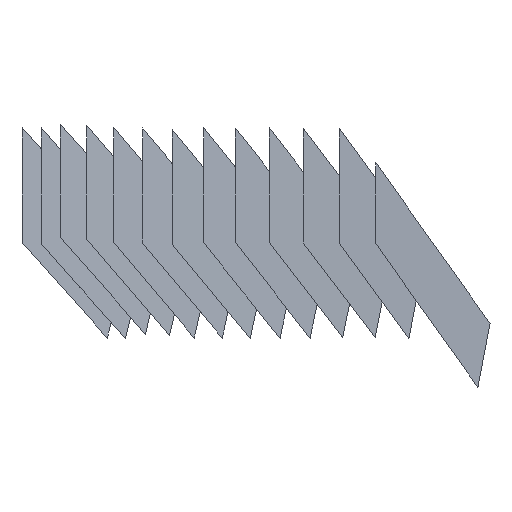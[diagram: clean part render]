
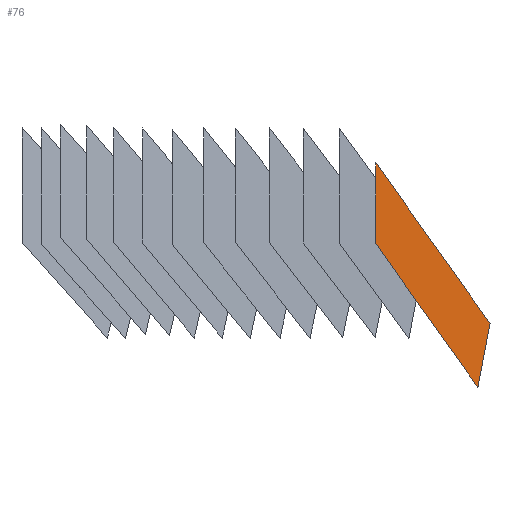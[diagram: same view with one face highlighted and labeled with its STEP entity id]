
A CAD part, left-side view. The second image highlights one B-rep face of the part: STEP entity #76.
In plain terms, the highlighted free-form (B-spline) face has degree [1, 1] with [2, 2] control points.
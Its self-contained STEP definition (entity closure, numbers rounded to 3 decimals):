
#76 = ADVANCED_FACE('',(#77),#90,.T.);
#77 = FACE_BOUND('',#78,.T.);
#78 = EDGE_LOOP('',(#79,#100,#114,#128,#142,#156,#170,#184,#198,#212,
    #226));
#79 = ORIENTED_EDGE('',*,*,#80,.T.);
#80 = EDGE_CURVE('',#81,#83,#85,.T.);
#81 = VERTEX_POINT('',#82);
#82 = CARTESIAN_POINT('',(34.894,65.512,
    16.373));
#83 = VERTEX_POINT('',#84);
#84 = CARTESIAN_POINT('',(34.245,66.166,17.31
    ));
#85 = SURFACE_CURVE('',#86,(#89),.PCURVE_S1.);
#86 = B_SPLINE_CURVE_WITH_KNOTS('',1,(#87,#88),.UNSPECIFIED.,.F.,.F.,(2,
    2),(-1.315,-0.),.PIECEWISE_BEZIER_KNOTS.);
#87 = CARTESIAN_POINT('',(34.894,65.512,
    16.373));
#88 = CARTESIAN_POINT('',(34.245,66.166,17.31
    ));
#89 = PCURVE('',#90,#95);
#90 = B_SPLINE_SURFACE_WITH_KNOTS('',1,1,(
    (#91,#92)
    ,(#93,#94
    )),.UNSPECIFIED.,.F.,.F.,.F.,(2,2),(2,2),(-5.927,
    6.013),(-3.95,4.594),
  .PIECEWISE_BEZIER_KNOTS.);
#91 = CARTESIAN_POINT('',(29.515,70.927,
    16.376));
#92 = CARTESIAN_POINT('',(35.537,64.865,
    16.372));
#93 = CARTESIAN_POINT('',(29.523,70.926,
    28.316));
#94 = CARTESIAN_POINT('',(35.546,64.865,
    28.312));
#95 = DEFINITIONAL_REPRESENTATION('',(#96),#99);
#96 = B_SPLINE_CURVE_WITH_KNOTS('',1,(#97,#98),.UNSPECIFIED.,.F.,.F.,(2,
    2),(-1.315,-0.),.PIECEWISE_BEZIER_KNOTS.);
#97 = CARTESIAN_POINT('',(-5.927,3.682));
#98 = CARTESIAN_POINT('',(-4.99,2.76));
#99 = ( GEOMETRIC_REPRESENTATION_CONTEXT(2) 
PARAMETRIC_REPRESENTATION_CONTEXT() REPRESENTATION_CONTEXT('2D SPACE',''
  ) );
#100 = ORIENTED_EDGE('',*,*,#101,.T.);
#101 = EDGE_CURVE('',#83,#102,#104,.T.);
#102 = VERTEX_POINT('',#103);
#103 = CARTESIAN_POINT('',(31.104,69.331,
    21.749));
#104 = SURFACE_CURVE('',#105,(#108),.PCURVE_S1.);
#105 = B_SPLINE_CURVE_WITH_KNOTS('',1,(#106,#107),.UNSPECIFIED.,.F.,.F.,
  (2,2),(0.,6.292),.PIECEWISE_BEZIER_KNOTS.);
#106 = CARTESIAN_POINT('',(34.245,66.166,
    17.31));
#107 = CARTESIAN_POINT('',(31.104,69.331,
    21.749));
#108 = PCURVE('',#90,#109);
#109 = DEFINITIONAL_REPRESENTATION('',(#110),#113);
#110 = B_SPLINE_CURVE_WITH_KNOTS('',1,(#111,#112),.UNSPECIFIED.,.F.,.F.,
  (2,2),(0.,6.292),.PIECEWISE_BEZIER_KNOTS.);
#111 = CARTESIAN_POINT('',(-4.99,2.76));
#112 = CARTESIAN_POINT('',(-0.553,-1.701));
#113 = ( GEOMETRIC_REPRESENTATION_CONTEXT(2) 
PARAMETRIC_REPRESENTATION_CONTEXT() REPRESENTATION_CONTEXT('2D SPACE',''
  ) );
#114 = ORIENTED_EDGE('',*,*,#115,.T.);
#115 = EDGE_CURVE('',#102,#116,#118,.T.);
#116 = VERTEX_POINT('',#117);
#117 = CARTESIAN_POINT('',(31.091,69.344,
    21.768));
#118 = SURFACE_CURVE('',#119,(#122),.PCURVE_S1.);
#119 = B_SPLINE_CURVE_WITH_KNOTS('',1,(#120,#121),.UNSPECIFIED.,.F.,.F.,
  (2,2),(0.,0.027),.PIECEWISE_BEZIER_KNOTS.);
#120 = CARTESIAN_POINT('',(31.104,69.331,
    21.749));
#121 = CARTESIAN_POINT('',(31.091,69.344,
    21.768));
#122 = PCURVE('',#90,#123);
#123 = DEFINITIONAL_REPRESENTATION('',(#124),#127);
#124 = B_SPLINE_CURVE_WITH_KNOTS('',1,(#125,#126),.UNSPECIFIED.,.F.,.F.,
  (2,2),(0.,0.027),.PIECEWISE_BEZIER_KNOTS.);
#125 = CARTESIAN_POINT('',(-0.553,-1.701));
#126 = CARTESIAN_POINT('',(-0.534,-1.72));
#127 = ( GEOMETRIC_REPRESENTATION_CONTEXT(2) 
PARAMETRIC_REPRESENTATION_CONTEXT() REPRESENTATION_CONTEXT('2D SPACE',''
  ) );
#128 = ORIENTED_EDGE('',*,*,#129,.T.);
#129 = EDGE_CURVE('',#116,#130,#132,.T.);
#130 = VERTEX_POINT('',#131);
#131 = CARTESIAN_POINT('',(29.521,70.925,
    24.001));
#132 = SURFACE_CURVE('',#133,(#136),.PCURVE_S1.);
#133 = B_SPLINE_CURVE_WITH_KNOTS('',1,(#134,#135),.UNSPECIFIED.,.F.,.F.,
  (2,2),(0.,3.154),.PIECEWISE_BEZIER_KNOTS.);
#134 = CARTESIAN_POINT('',(31.091,69.344,
    21.768));
#135 = CARTESIAN_POINT('',(29.521,70.925,
    24.001));
#136 = PCURVE('',#90,#137);
#137 = DEFINITIONAL_REPRESENTATION('',(#138),#141);
#138 = B_SPLINE_CURVE_WITH_KNOTS('',1,(#139,#140),.UNSPECIFIED.,.F.,.F.,
  (2,2),(0.,3.154),.PIECEWISE_BEZIER_KNOTS.);
#139 = CARTESIAN_POINT('',(-0.534,-1.72));
#140 = CARTESIAN_POINT('',(1.697,-3.948));
#141 = ( GEOMETRIC_REPRESENTATION_CONTEXT(2) 
PARAMETRIC_REPRESENTATION_CONTEXT() REPRESENTATION_CONTEXT('2D SPACE',''
  ) );
#142 = ORIENTED_EDGE('',*,*,#143,.T.);
#143 = EDGE_CURVE('',#130,#144,#146,.T.);
#144 = VERTEX_POINT('',#145);
#145 = CARTESIAN_POINT('',(29.522,70.926,
    26.));
#146 = SURFACE_CURVE('',#147,(#150),.PCURVE_S1.);
#147 = B_SPLINE_CURVE_WITH_KNOTS('',1,(#148,#149),.UNSPECIFIED.,.F.,.F.,
  (2,2),(0.,1.999),.PIECEWISE_BEZIER_KNOTS.);
#148 = CARTESIAN_POINT('',(29.521,70.925,
    24.001));
#149 = CARTESIAN_POINT('',(29.522,70.926,
    26.));
#150 = PCURVE('',#90,#151);
#151 = DEFINITIONAL_REPRESENTATION('',(#152),#155);
#152 = B_SPLINE_CURVE_WITH_KNOTS('',1,(#153,#154),.UNSPECIFIED.,.F.,.F.,
  (2,2),(0.,1.999),.PIECEWISE_BEZIER_KNOTS.);
#153 = CARTESIAN_POINT('',(1.697,-3.948));
#154 = CARTESIAN_POINT('',(3.696,-3.949));
#155 = ( GEOMETRIC_REPRESENTATION_CONTEXT(2) 
PARAMETRIC_REPRESENTATION_CONTEXT() REPRESENTATION_CONTEXT('2D SPACE',''
  ) );
#156 = ORIENTED_EDGE('',*,*,#157,.T.);
#157 = EDGE_CURVE('',#144,#158,#160,.T.);
#158 = VERTEX_POINT('',#159);
#159 = CARTESIAN_POINT('',(29.523,70.926,
    28.));
#160 = SURFACE_CURVE('',#161,(#164),.PCURVE_S1.);
#161 = B_SPLINE_CURVE_WITH_KNOTS('',1,(#162,#163),.UNSPECIFIED.,.F.,.F.,
  (2,2),(0.,2.),.PIECEWISE_BEZIER_KNOTS.);
#162 = CARTESIAN_POINT('',(29.522,70.926,
    26.));
#163 = CARTESIAN_POINT('',(29.523,70.926,
    28.));
#164 = PCURVE('',#90,#165);
#165 = DEFINITIONAL_REPRESENTATION('',(#166),#169);
#166 = B_SPLINE_CURVE_WITH_KNOTS('',1,(#167,#168),.UNSPECIFIED.,.F.,.F.,
  (2,2),(0.,2.),.PIECEWISE_BEZIER_KNOTS.);
#167 = CARTESIAN_POINT('',(3.696,-3.949));
#168 = CARTESIAN_POINT('',(5.696,-3.95));
#169 = ( GEOMETRIC_REPRESENTATION_CONTEXT(2) 
PARAMETRIC_REPRESENTATION_CONTEXT() REPRESENTATION_CONTEXT('2D SPACE',''
  ) );
#170 = ORIENTED_EDGE('',*,*,#171,.T.);
#171 = EDGE_CURVE('',#158,#172,#174,.T.);
#172 = VERTEX_POINT('',#173);
#173 = CARTESIAN_POINT('',(29.523,70.926,
    28.316));
#174 = SURFACE_CURVE('',#175,(#178),.PCURVE_S1.);
#175 = B_SPLINE_CURVE_WITH_KNOTS('',1,(#176,#177),.UNSPECIFIED.,.F.,.F.,
  (2,2),(0.,0.316),.PIECEWISE_BEZIER_KNOTS.);
#176 = CARTESIAN_POINT('',(29.523,70.926,
    28.));
#177 = CARTESIAN_POINT('',(29.523,70.926,
    28.316));
#178 = PCURVE('',#90,#179);
#179 = DEFINITIONAL_REPRESENTATION('',(#180),#183);
#180 = B_SPLINE_CURVE_WITH_KNOTS('',1,(#181,#182),.UNSPECIFIED.,.F.,.F.,
  (2,2),(0.,0.316),.PIECEWISE_BEZIER_KNOTS.);
#181 = CARTESIAN_POINT('',(5.696,-3.95));
#182 = CARTESIAN_POINT('',(6.013,-3.95));
#183 = ( GEOMETRIC_REPRESENTATION_CONTEXT(2) 
PARAMETRIC_REPRESENTATION_CONTEXT() REPRESENTATION_CONTEXT('2D SPACE',''
  ) );
#184 = ORIENTED_EDGE('',*,*,#185,.T.);
#185 = EDGE_CURVE('',#172,#186,#188,.T.);
#186 = VERTEX_POINT('',#187);
#187 = CARTESIAN_POINT('',(32.612,67.814,
    23.921));
#188 = SURFACE_CURVE('',#189,(#192),.PCURVE_S1.);
#189 = B_SPLINE_CURVE_WITH_KNOTS('',1,(#190,#191),.UNSPECIFIED.,.F.,.F.,
  (2,2),(0.,6.209),.PIECEWISE_BEZIER_KNOTS.);
#190 = CARTESIAN_POINT('',(29.523,70.926,
    28.316));
#191 = CARTESIAN_POINT('',(32.612,67.814,
    23.921));
#192 = PCURVE('',#90,#193);
#193 = DEFINITIONAL_REPRESENTATION('',(#194),#197);
#194 = B_SPLINE_CURVE_WITH_KNOTS('',1,(#195,#196),.UNSPECIFIED.,.F.,.F.,
  (2,2),(0.,6.209),.PIECEWISE_BEZIER_KNOTS.);
#195 = CARTESIAN_POINT('',(6.013,-3.95));
#196 = CARTESIAN_POINT('',(1.619,0.437));
#197 = ( GEOMETRIC_REPRESENTATION_CONTEXT(2) 
PARAMETRIC_REPRESENTATION_CONTEXT() REPRESENTATION_CONTEXT('2D SPACE',''
  ) );
#198 = ORIENTED_EDGE('',*,*,#199,.T.);
#199 = EDGE_CURVE('',#186,#200,#202,.T.);
#200 = VERTEX_POINT('',#201);
#201 = CARTESIAN_POINT('',(32.62,67.806,
    23.909));
#202 = SURFACE_CURVE('',#203,(#206),.PCURVE_S1.);
#203 = B_SPLINE_CURVE_WITH_KNOTS('',1,(#204,#205),.UNSPECIFIED.,.F.,.F.,
  (2,2),(0.,0.016),.PIECEWISE_BEZIER_KNOTS.);
#204 = CARTESIAN_POINT('',(32.612,67.814,
    23.921));
#205 = CARTESIAN_POINT('',(32.62,67.806,
    23.909));
#206 = PCURVE('',#90,#207);
#207 = DEFINITIONAL_REPRESENTATION('',(#208),#211);
#208 = B_SPLINE_CURVE_WITH_KNOTS('',1,(#209,#210),.UNSPECIFIED.,.F.,.F.,
  (2,2),(0.,0.016),.PIECEWISE_BEZIER_KNOTS.);
#209 = CARTESIAN_POINT('',(1.619,0.437));
#210 = CARTESIAN_POINT('',(1.608,0.448));
#211 = ( GEOMETRIC_REPRESENTATION_CONTEXT(2) 
PARAMETRIC_REPRESENTATION_CONTEXT() REPRESENTATION_CONTEXT('2D SPACE',''
  ) );
#212 = ORIENTED_EDGE('',*,*,#213,.T.);
#213 = EDGE_CURVE('',#200,#214,#216,.T.);
#214 = VERTEX_POINT('',#215);
#215 = CARTESIAN_POINT('',(35.54,64.865,
    19.784));
#216 = SURFACE_CURVE('',#217,(#220),.PCURVE_S1.);
#217 = B_SPLINE_CURVE_WITH_KNOTS('',1,(#218,#219),.UNSPECIFIED.,.F.,.F.,
  (2,2),(-5.847,-0.),.PIECEWISE_BEZIER_KNOTS.);
#218 = CARTESIAN_POINT('',(32.62,67.806,
    23.909));
#219 = CARTESIAN_POINT('',(35.54,64.865,
    19.784));
#220 = PCURVE('',#90,#221);
#221 = DEFINITIONAL_REPRESENTATION('',(#222),#225);
#222 = B_SPLINE_CURVE_WITH_KNOTS('',1,(#223,#224),.UNSPECIFIED.,.F.,.F.,
  (2,2),(-5.847,-0.),.PIECEWISE_BEZIER_KNOTS.);
#223 = CARTESIAN_POINT('',(1.608,0.448));
#224 = CARTESIAN_POINT('',(-2.515,4.594));
#225 = ( GEOMETRIC_REPRESENTATION_CONTEXT(2) 
PARAMETRIC_REPRESENTATION_CONTEXT() REPRESENTATION_CONTEXT('2D SPACE',''
  ) );
#226 = ORIENTED_EDGE('',*,*,#227,.T.);
#227 = EDGE_CURVE('',#214,#81,#228,.T.);
#228 = SURFACE_CURVE('',#229,(#232),.PCURVE_S1.);
#229 = B_SPLINE_CURVE_WITH_KNOTS('',1,(#230,#231),.UNSPECIFIED.,.F.,.F.,
  (2,2),(-3.532,-0.),.PIECEWISE_BEZIER_KNOTS.);
#230 = CARTESIAN_POINT('',(35.54,64.865,
    19.784));
#231 = CARTESIAN_POINT('',(34.894,65.512,
    16.373));
#232 = PCURVE('',#90,#233);
#233 = DEFINITIONAL_REPRESENTATION('',(#234),#237);
#234 = B_SPLINE_CURVE_WITH_KNOTS('',1,(#235,#236),.UNSPECIFIED.,.F.,.F.,
  (2,2),(-3.532,-0.),.PIECEWISE_BEZIER_KNOTS.);
#235 = CARTESIAN_POINT('',(-2.515,4.594));
#236 = CARTESIAN_POINT('',(-5.927,3.682));
#237 = ( GEOMETRIC_REPRESENTATION_CONTEXT(2) 
PARAMETRIC_REPRESENTATION_CONTEXT() REPRESENTATION_CONTEXT('2D SPACE',''
  ) );
